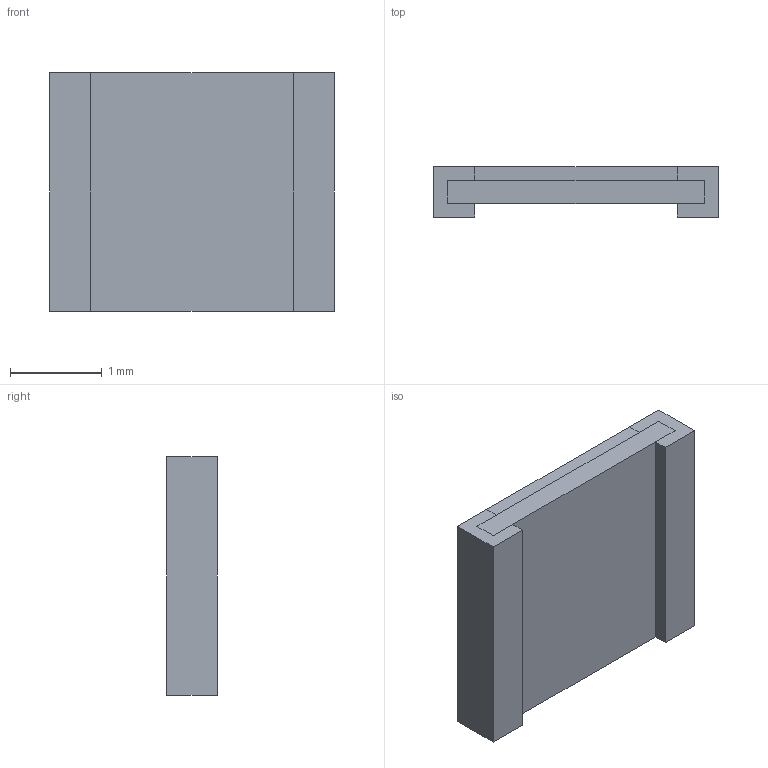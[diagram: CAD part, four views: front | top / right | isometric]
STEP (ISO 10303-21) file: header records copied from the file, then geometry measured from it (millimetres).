
FILE_DESCRIPTION(('FreeCAD Model'),'2;1');
FILE_NAME('Open CASCADE Shape Model','2022-02-08T17:23:38',('Author'),( ''),'Open CASCADE STEP processor 7.5','FreeCAD','Unknown');
FILE_SCHEMA(('AUTOMOTIVE_DESIGN { 1 0 10303 214 1 1 1 1 }'));
Length unit declared in the file: millimetre
Products named in the file (1): Pad002
Bounding box: 3.1 x 0.55 x 2.6 mm (x, y, z)
Volume: 3.6 mm3; surface area: 22.5 mm2
Topology: 1 solids, 1 shells, 18 faces, 48 edges, 32 vertices
Faces by surface type: plane 18
Entity records: 1320 total; most frequent: CARTESIAN_POINT 195, DIRECTION 182, LINE 144, VECTOR 144, ORIENTED_EDGE 96, PCURVE 96, DEFINITIONAL_REPRESENTATION 96, EDGE_CURVE 48
